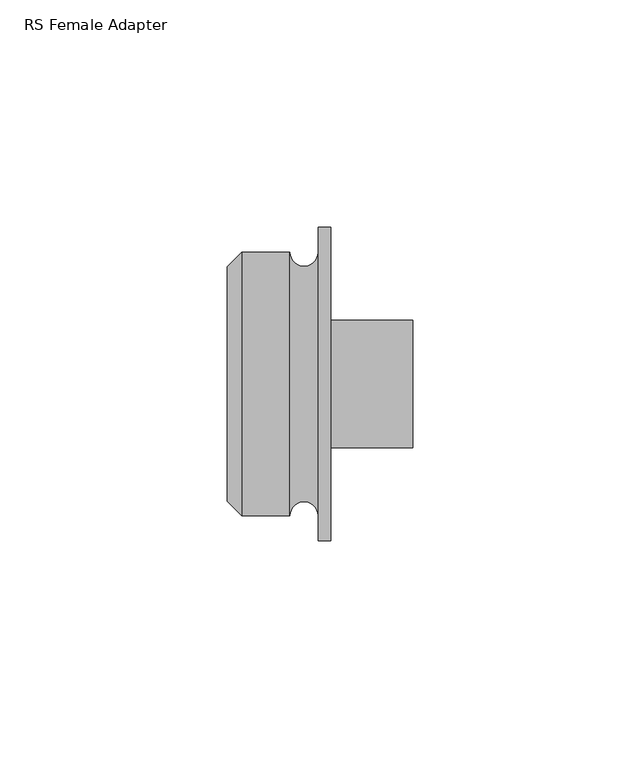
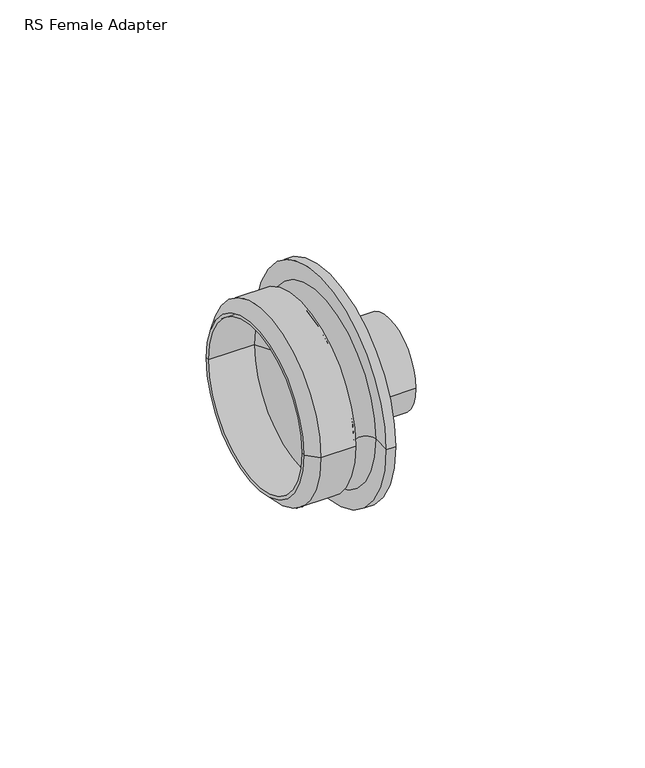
"""IFC4 building model written with IfcOpenShell, lengths in millimetres: pipe fitting geometry, RS Female Adapter : Superpipe RS2 FT Adapter ½”."""

from ifc_helpers import new_model, si_unit, point, frame, origin, place, context, project, spatial, polyline, circle_curve, ellipse_curve, trimmed, source, transform, mapped, element, save
from ifc_brep_helpers import plane_surface, cylinder_surface, revolved_surface, advanced_brep


def rs_female_adapter_fa9c9adc(model_context):
    return source(origin(), model_context, "Body", "AdvancedBrep", [
        advanced_brep(
        [(20.0, -34.5, 0.0), (20.0, 34.5, 0.0), (22.8, 34.5, 0.0), (22.8, -34.5, 0.0), (20.0, -29.0, 0.0), (20.0, 29.0, 0.0), (22.8, 10.0, 0.0), (22.8, -10.0, 0.0), (0.0, -25.8, 0.0), (0.0, 25.8, 0.0), (3.2, 29.0, 0.0), (3.2, -29.0, 0.0), (0.0, -24.8, 0.0), (0.0, 24.8, 0.0), (13.8, -29.0, 0.0), (13.8, 29.0, 0.0), (14.0, -24.8, 0.0), (14.0, 24.8, 0.0)],
        [
            (0, 1, circle_curve(frame((20.0, 0.0, 0.0), z_axis=(1.0, 0.0, 0.0), x_axis=(0.0, 1.0, 0.0)), 34.5)),
            (1, 2),
            (2, 3, circle_curve(frame((22.8, 0.0, 0.0), z_axis=(-1.0, 0.0, 0.0), x_axis=(0.0, 1.0, 0.0)), 34.5)),
            (3, 0),
            (1, 0, circle_curve(frame((20.0, 0.0, 0.0), z_axis=(1.0, 0.0, 0.0), x_axis=(0.0, 1.0, 0.0)), 34.5)),
            (3, 2, circle_curve(frame((22.8, 0.0, 0.0), z_axis=(-1.0, 0.0, 0.0), x_axis=(0.0, 1.0, 0.0)), 34.5)),
            (0, 4),
            (4, 5, circle_curve(frame((20.0, 0.0, 0.0), z_axis=(1.0, 0.0, 0.0), x_axis=(0.0, 1.0, 0.0)), 29.0)),
            (5, 1),
            (5, 4, circle_curve(frame((20.0, 0.0, 0.0), z_axis=(1.0, 0.0, 0.0), x_axis=(0.0, 1.0, 0.0)), 29.0)),
            (2, 6),
            (6, 7, circle_curve(frame((22.8, 0.0, 0.0), z_axis=(-1.0, 0.0, 0.0), x_axis=(0.0, 1.0, 0.0)), 10.0)),
            (7, 3),
            (7, 6, circle_curve(frame((22.8, 0.0, 0.0), z_axis=(-1.0, 0.0, 0.0), x_axis=(0.0, 1.0, 0.0)), 10.0)),
            (8, 9, circle_curve(frame((0.0, 0.0, 0.0), z_axis=(1.0, 0.0, 0.0), x_axis=(0.0, 1.0, 0.0)), 25.8)),
            (9, 10),
            (10, 11, circle_curve(frame((3.2, 0.0, 0.0), z_axis=(-1.0, 0.0, 0.0), x_axis=(0.0, 1.0, 0.0)), 29.0)),
            (11, 8),
            (9, 8, circle_curve(frame((0.0, 0.0, 0.0), z_axis=(1.0, 0.0, 0.0), x_axis=(0.0, 1.0, 0.0)), 25.8)),
            (11, 10, circle_curve(frame((3.2, 0.0, 0.0), z_axis=(-1.0, 0.0, 0.0), x_axis=(0.0, 1.0, 0.0)), 29.0)),
            (8, 12),
            (12, 13, circle_curve(frame((0.0, 0.0, 0.0), z_axis=(1.0, 0.0, 0.0), x_axis=(0.0, 1.0, 0.0)), 24.8)),
            (13, 9),
            (13, 12, circle_curve(frame((0.0, 0.0, 0.0), z_axis=(1.0, 0.0, 0.0), x_axis=(0.0, 1.0, 0.0)), 24.8)),
            (4, 14, circle_curve(frame((16.9, -29.0, 0.0), z_axis=(0.0, 0.0, 1.0), x_axis=(1.0, 0.0, 0.0)), 3.1)),
            (14, 15, circle_curve(frame((13.8, 0.0, 0.0), z_axis=(1.0, 0.0, 0.0), x_axis=(0.0, 1.0, 0.0)), 29.0)),
            (15, 5, circle_curve(frame((16.9, 29.0, 0.0), z_axis=(0.0, 0.0, 1.0), x_axis=(1.0, 0.0, 0.0)), 3.1)),
            (15, 14, circle_curve(frame((13.8, 0.0, 0.0), z_axis=(1.0, 0.0, 0.0), x_axis=(0.0, 1.0, 0.0)), 29.0)),
            (10, 15),
            (14, 11),
            (12, 16),
            (16, 17, circle_curve(frame((14.0, 0.0, 0.0), z_axis=(1.0, 0.0, 0.0), x_axis=(0.0, 1.0, 0.0)), 24.8)),
            (17, 13),
            (17, 16, circle_curve(frame((14.0, 0.0, 0.0), z_axis=(1.0, 0.0, 0.0), x_axis=(0.0, 1.0, 0.0)), 24.8)),
            (16, 7),
            (6, 17),
        ],
        [
            cylinder_surface(frame((1960.8, 0.0, 0.0), z_axis=(-1.0, 0.0, 0.0), x_axis=(0.0, 1.0, 0.0)), 34.5),
            plane_surface(frame((20.0, 0.0, 0.0), z_axis=(-1.0, 0.0, 0.0), x_axis=(0.0, 1.0, 0.0))),
            plane_surface(frame((22.8, 0.0, 0.0), z_axis=(1.0, 0.0, 0.0), x_axis=(0.0, 1.0, 0.0))),
            revolved_surface(polyline([(3.2, 29.0, 0.0), (0.0, 25.8, 0.0)]), (1960.8, 0.0, 0.0), (-1.0, 0.0, 0.0)),
            plane_surface(frame((0.0, 0.0, 0.0), z_axis=(-1.0, 0.0, 0.0), x_axis=(0.0, 1.0, 0.0))),
            revolved_surface(trimmed(ellipse_curve(frame((16.9, 29.0, 0.0), z_axis=(0.0, 0.0, -1.0), x_axis=(1.0, 0.0, 0.0)), 3.1, 3.1), [point((20.0, 29.0, 0.0))], [point((13.8, 29.0, 0.0))], True, "CARTESIAN"), (1960.8, 0.0, 0.0), (-1.0, 0.0, 0.0)),
            cylinder_surface(frame((1960.8, 0.0, 0.0), z_axis=(-1.0, 0.0, 0.0), x_axis=(0.0, 1.0, 0.0)), 29.0),
            revolved_surface(polyline([(0.0, 24.8, 0.0), (14.0, 24.8, 0.0)]), (1987.0, 0.0, 0.0), (-1.0, 0.0, 0.0)),
            revolved_surface(polyline([(14.0, 24.8, 0.0), (22.8, 10.0, 0.0)]), (1987.0, 0.0, 0.0), (-1.0, 0.0, 0.0)),
        ],
        [
            (0, [[1, 2, 3, 4]]),
            (0, [[-2, 5, -4, 6]]),
            (1, [[-1, 7, 8, 9]]),
            (1, [[-5, -9, 10, -7]]),
            (2, [[-3, 11, 12, 13]]),
            (2, [[-6, -13, 14, -11]]),
            (3, [[15, 16, 17, 18]]),
            (3, [[-16, 19, -18, 20]]),
            (4, [[-15, 21, 22, 23]]),
            (4, [[-19, -23, 24, -21]]),
            (5, [[-8, 25, 26, 27]]),
            (5, [[-10, -27, 28, -25]]),
            (6, [[-17, 29, -26, 30]]),
            (6, [[-20, -30, -28, -29]]),
            (7, [[31, 32, 33, -22]]),
            (7, [[-31, -24, -33, 34]]),
            (8, [[-32, 35, -12, 36]]),
            (8, [[-34, -36, -14, -35]]),
        ],
    ),
        advanced_brep(
        [(40.8, -14.0, 0.0), (40.8, 14.0, 0.0), (40.8, 10.0, 0.0), (40.8, -10.0, 0.0), (22.8, 10.0, 0.0), (22.8, -10.0, 0.0), (22.8, 14.0, 0.0), (22.8, -14.0, 0.0)],
        [
            (0, 1, circle_curve(frame((40.8, 0.0, 0.0), z_axis=(1.0, 0.0, 0.0), x_axis=(0.0, 1.0, 0.0)), 14.0)),
            (1, 2),
            (2, 3, circle_curve(frame((40.8, 0.0, 0.0), z_axis=(-1.0, 0.0, 0.0), x_axis=(0.0, 1.0, 0.0)), 10.0)),
            (3, 0),
            (2, 4),
            (4, 5, circle_curve(frame((22.8, 0.0, 0.0), z_axis=(-1.0, 0.0, 0.0), x_axis=(0.0, 1.0, 0.0)), 10.0)),
            (5, 3),
            (4, 6),
            (6, 7, circle_curve(frame((22.8, 0.0, 0.0), z_axis=(-1.0, 0.0, 0.0), x_axis=(0.0, 1.0, 0.0)), 14.0)),
            (7, 5),
            (6, 1),
            (0, 7),
            (6, 7, circle_curve(frame((22.8, 0.0, 0.0), z_axis=(1.0, 0.0, 0.0), x_axis=(0.0, 1.0, 0.0)), 14.0)),
            (0, 1, circle_curve(frame((40.8, 0.0, 0.0), z_axis=(-1.0, 0.0, 0.0), x_axis=(0.0, 1.0, 0.0)), 14.0)),
            (4, 5, circle_curve(frame((22.8, 0.0, 0.0), z_axis=(1.0, 0.0, 0.0), x_axis=(0.0, 1.0, 0.0)), 10.0)),
            (2, 3, circle_curve(frame((40.8, 0.0, 0.0), z_axis=(1.0, 0.0, 0.0), x_axis=(0.0, 1.0, 0.0)), 10.0)),
        ],
        [
            plane_surface(frame((40.8, 0.0, 0.0), z_axis=(1.0, 0.0, 0.0), x_axis=(0.0, 1.0, 0.0))),
            revolved_surface(polyline([(22.799999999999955, 10.0, 0.0), (40.799999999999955, 10.0, 0.0)]), (1996.0, 0.0, 0.0), (-1.0, 0.0, 0.0)),
            plane_surface(frame((22.8, 0.0, 0.0), z_axis=(-1.0, 0.0, 0.0), x_axis=(0.0, 1.0, 0.0))),
            cylinder_surface(frame((1996.0, 0.0, 0.0), z_axis=(-1.0, 0.0, 0.0), x_axis=(0.0, 1.0, 0.0)), 14.0),
        ],
        [
            (0, [[1, 2, 3, 4]]),
            (1, [[-3, 5, 6, 7]]),
            (2, [[-6, 8, 9, 10]]),
            (3, [[-9, 11, -1, 12]]),
            (3, [[13, -12, 14, -11]]),
            (2, [[15, -10, -13, -8]]),
            (1, [[16, -7, -15, -5]]),
            (0, [[-14, -4, -16, -2]]),
        ],
    ),
    ])


if __name__ == "__main__":
    model = new_model("IFC4")
    model_context = context("Model", 3, world=origin())
    ifc_project = project(units=[si_unit("LENGTHUNIT", "METRE", prefix="MILLI")], contexts=[model_context])
    site = spatial("IfcSite", under=ifc_project)
    building = spatial("IfcBuilding", under=site)
    placement = place(None, origin())
    rs_female_adapter_shape = rs_female_adapter_fa9c9adc(model_context)
    element("IfcPipeFitting", 1, ObjectType="RS Female Adapter : Superpipe RS2 FT Adapter ½”", at=placement, inside=building, context=model_context, shape_type="MappedRepresentation", body=[
        mapped(rs_female_adapter_shape, transform((0.0, 0.0, 0.0), x_axis=(1.0, 0.0, 0.0), y_axis=(0.0, 1.0, 0.0), z_axis=(0.0, 0.0, 1.0))),
    ])
    save(model, "model.ifc")
